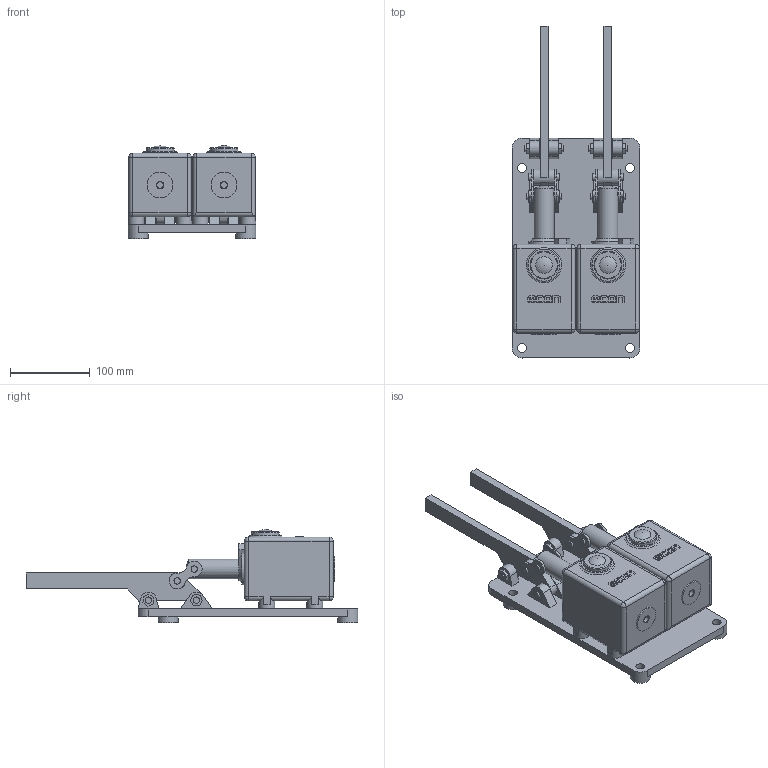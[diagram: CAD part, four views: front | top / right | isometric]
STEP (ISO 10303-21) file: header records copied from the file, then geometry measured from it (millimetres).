
FILE_DESCRIPTION(/* description */ (''),/* implementation_level */ '2;1');
FILE_NAME(/* name */ '107.stp',/* time_stamp */ '2024-11-12T12:00:20+01:00',/* author */ ('roger.thijssen'),/* organization */ (''),/* preprocessor_version */ 'ST-DEVELOPER v19.2',/* originating_system */ 'Autodesk Inventor 2024',/* authorisation */ '');
FILE_SCHEMA (('AUTOMOTIVE_DESIGN { 1 0 10303 214 3 1 1 }'));
Length unit declared in the file: millimetre
Products named in the file (1): 107
Bounding box: 160 x 415.04 x 116.5 mm (x, y, z)
Volume: 2125271 mm3; surface area: 255529.5 mm2
Topology: 1 solids, 1 shells, 428 faces, 1061 edges, 667 vertices
Faces by surface type: plane 252, cylinder 148, sphere 16, cone 8, torus 2, bspline 2
Full cylindrical faces by diameter (mm): 8 x24, 8.566 x2, 11 x4, 14 x4, 20 x6, 25 x6, 32 x2, 35 x2, 40 x2
Entity records: 13421 total; most frequent: CARTESIAN_POINT 2509, DIRECTION 2214, ORIENTED_EDGE 2090, EDGE_CURVE 1045, AXIS2_PLACEMENT_3D 768, LINE 678, VECTOR 678, VERTEX_POINT 667
